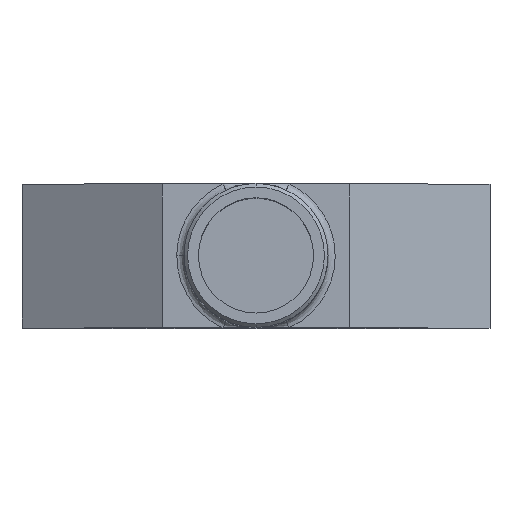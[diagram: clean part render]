
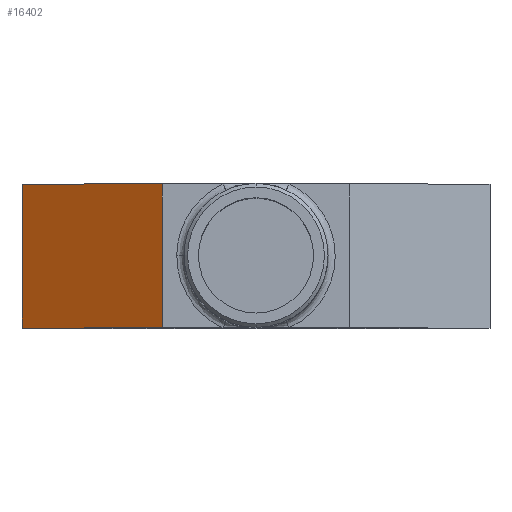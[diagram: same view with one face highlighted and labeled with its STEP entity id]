
A CAD part, top view. The second image highlights one B-rep face of the part: STEP entity #16402.
In plain terms, the highlighted planar face has unit normal (-0.525, 0, 0.851).
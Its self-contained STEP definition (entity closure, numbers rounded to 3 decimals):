
#253 = VECTOR ( 'NONE', #282, 1000. ) ;
#282 = DIRECTION ( 'NONE',  ( -0.851, 0., -0.525 ) ) ;
#830 = VERTEX_POINT ( 'NONE', #21150 ) ;
#2655 = ORIENTED_EDGE ( 'NONE', *, *, #21801, .T. ) ;
#2829 = EDGE_CURVE ( 'NONE', #16445, #830, #14826, .T. ) ;
#2838 = DIRECTION ( 'NONE',  ( -0.851, 0., -0.525 ) ) ;
#2886 = VERTEX_POINT ( 'NONE', #19041 ) ;
#3484 = DIRECTION ( 'NONE',  ( 0., -1., 0. ) ) ;
#4623 = CARTESIAN_POINT ( 'NONE',  ( -57.162, 7.177, 6.5 ) ) ;
#5592 = CARTESIAN_POINT ( 'NONE',  ( -76.633, 17.177, -5.5 ) ) ;
#6726 = ORIENTED_EDGE ( 'NONE', *, *, #18848, .F. ) ;
#7575 = LINE ( 'NONE', #4623, #11843 ) ;
#8646 = ORIENTED_EDGE ( 'NONE', *, *, #2829, .T. ) ;
#8648 = LINE ( 'NONE', #5592, #12926 ) ;
#10712 = CARTESIAN_POINT ( 'NONE',  ( -57.162, 7.177, 6.5 ) ) ;
#11035 = CARTESIAN_POINT ( 'NONE',  ( -76.633, 7.177, -5.5 ) ) ;
#11843 = VECTOR ( 'NONE', #2838, 1000. ) ;
#12540 = DIRECTION ( 'NONE',  ( -0.851, 0., -0.525 ) ) ;
#12926 = VECTOR ( 'NONE', #20126, 1000. ) ;
#13876 = EDGE_CURVE ( 'NONE', #16445, #2886, #22218, .T. ) ;
#13893 = FACE_OUTER_BOUND ( 'NONE', #14423, .T. ) ;
#14258 = PLANE ( 'NONE',  #18949 ) ;
#14337 = CARTESIAN_POINT ( 'NONE',  ( -57.162, 27.177, 6.5 ) ) ;
#14408 = CARTESIAN_POINT ( 'NONE',  ( -57.162, 17.177, 6.5 ) ) ;
#14423 = EDGE_LOOP ( 'NONE', ( #22723, #8646, #2655, #6726 ) ) ;
#14826 = LINE ( 'NONE', #22122, #253 ) ;
#14835 = VECTOR ( 'NONE', #3484, 1000. ) ;
#15558 = VERTEX_POINT ( 'NONE', #11035 ) ;
#16402 = ADVANCED_FACE ( 'NONE', ( #13893 ), #14258, .F. ) ;
#16445 = VERTEX_POINT ( 'NONE', #14337 ) ;
#18848 = EDGE_CURVE ( 'NONE', #2886, #15558, #7575, .T. ) ;
#18949 = AXIS2_PLACEMENT_3D ( 'NONE', #10712, #23386, #12540 ) ;
#19041 = CARTESIAN_POINT ( 'NONE',  ( -57.162, 7.177, 6.5 ) ) ;
#20126 = DIRECTION ( 'NONE',  ( 0., -1., 0. ) ) ;
#21150 = CARTESIAN_POINT ( 'NONE',  ( -76.633, 27.177, -5.5 ) ) ;
#21801 = EDGE_CURVE ( 'NONE', #830, #15558, #8648, .T. ) ;
#22122 = CARTESIAN_POINT ( 'NONE',  ( -57.162, 27.177, 6.5 ) ) ;
#22218 = LINE ( 'NONE', #14408, #14835 ) ;
#22723 = ORIENTED_EDGE ( 'NONE', *, *, #13876, .F. ) ;
#23386 = DIRECTION ( 'NONE',  ( 0.525, 0., -0.851 ) ) ;
